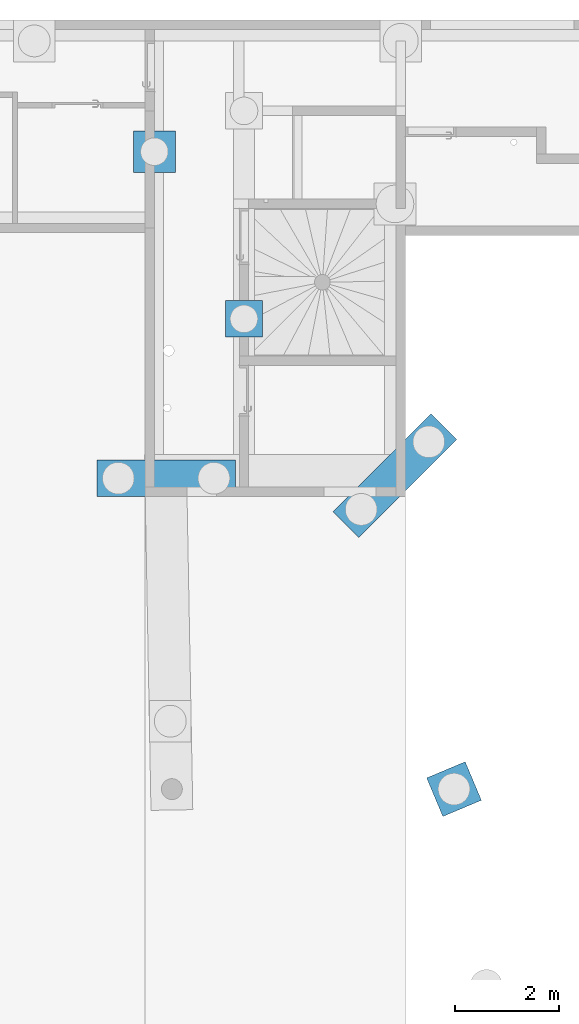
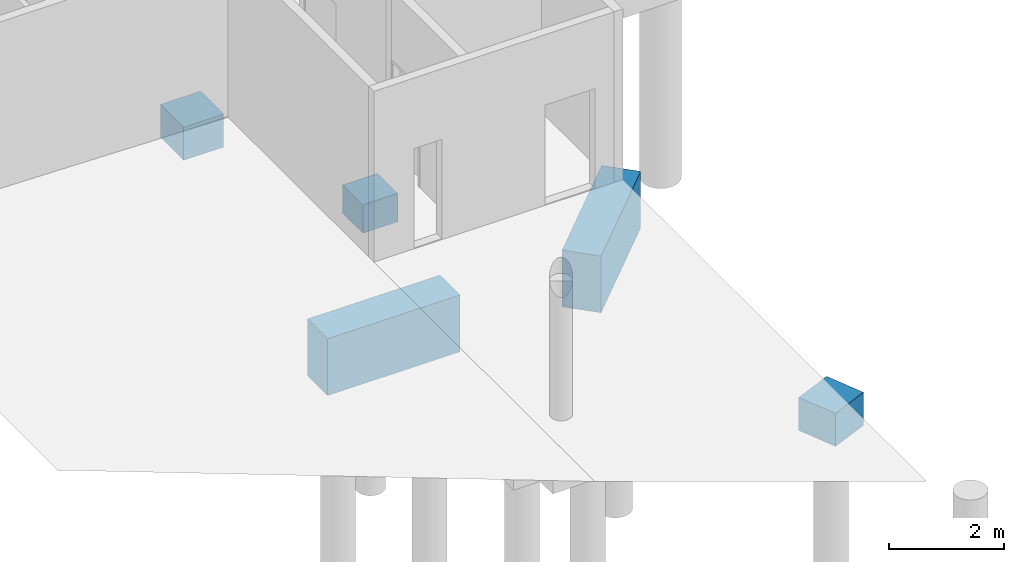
# One storey, part 10 of 14: 5 slabs.
"""IFC2X3 building model written with IfcOpenShell, lengths in centimetres."""

from ifc_helpers import new_model, entity, si_unit, converted_unit, derived_unit, direction, frame, origin, place, context, subcontext, project, spatial, faceted_brep, material, element, save


model = new_model("IFC2X3")

# Units and contexts
model_context = context("Model", 3, precision=0.001, world=origin(), true_north=direction((6.12303176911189e-17, 1.0)))
body_context = subcontext(model_context, "Body", "Model", "MODEL_VIEW")
ifc_project = project(units=[si_unit("LENGTHUNIT", "METRE", prefix="CENTI"), si_unit("AREAUNIT", "SQUARE_METRE"), si_unit("VOLUMEUNIT", "CUBIC_METRE"), converted_unit("PLANEANGLEUNIT", "DEGREE", entity("IfcRatioMeasure", 0.0174532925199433), si_unit("PLANEANGLEUNIT", "RADIAN"), dimensions=[0, 0, 0, 0, 0, 0, 0]), si_unit("MASSUNIT", "GRAM", prefix="KILO"), derived_unit("MASSDENSITYUNIT", [(si_unit("MASSUNIT", "GRAM", prefix="KILO"), 1), (si_unit("LENGTHUNIT", "METRE"), -3)]), si_unit("TIMEUNIT", "SECOND"), si_unit("FREQUENCYUNIT", "HERTZ"), si_unit("THERMODYNAMICTEMPERATUREUNIT", "DEGREE_CELSIUS"), derived_unit("THERMALTRANSMITTANCEUNIT", [(si_unit("MASSUNIT", "GRAM", prefix="KILO"), 1), (si_unit("THERMODYNAMICTEMPERATUREUNIT", "KELVIN"), -1), (si_unit("TIMEUNIT", "SECOND"), -3)]), derived_unit("VOLUMETRICFLOWRATEUNIT", [(si_unit("LENGTHUNIT", "METRE"), 3), (si_unit("TIMEUNIT", "SECOND"), -1)]), si_unit("ELECTRICCURRENTUNIT", "AMPERE"), si_unit("ELECTRICVOLTAGEUNIT", "VOLT"), si_unit("POWERUNIT", "WATT"), si_unit("FORCEUNIT", "NEWTON"), si_unit("ILLUMINANCEUNIT", "LUX"), si_unit("LUMINOUSFLUXUNIT", "LUMEN"), si_unit("LUMINOUSINTENSITYUNIT", "CANDELA"), derived_unit("USERDEFINED", [(si_unit("MASSUNIT", "GRAM", prefix="KILO"), -1), (si_unit("LENGTHUNIT", "METRE"), -2), (si_unit("TIMEUNIT", "SECOND"), 3), (si_unit("LUMINOUSFLUXUNIT", "LUMEN"), 1)]), derived_unit("LINEARVELOCITYUNIT", [(si_unit("LENGTHUNIT", "METRE"), 1), (si_unit("TIMEUNIT", "SECOND"), -1)]), si_unit("PRESSUREUNIT", "PASCAL"), derived_unit("USERDEFINED", [(si_unit("LENGTHUNIT", "METRE"), -2), (si_unit("MASSUNIT", "GRAM", prefix="KILO"), 1), (si_unit("TIMEUNIT", "SECOND"), -2)])], contexts=[model_context])

# Site, building, storey
site_placement = place(None, origin())
site = spatial("IfcSite", under=ifc_project, at=site_placement, Name="Default", CompositionType="ELEMENT")
building_placement = place(site_placement, origin())
building = spatial("IfcBuilding", under=site, at=building_placement, Name="CAGE 03", CompositionType="ELEMENT")
storey_placement = place(building_placement, frame((0.0, 0.0, -42.0)))
storey = spatial("IfcBuildingStorey", under=building, at=storey_placement, Name="+3.58", CompositionType="ELEMENT", Elevation=-42.0000000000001)

# Slabs
ifc_material = material(Name="Béton, C25/30")
slab_1_placement = place(storey_placement, frame((9917.86582014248, 4381.66066607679, -252.0)))
element("IfcSlab", 1, at=slab_1_placement, inside=storey, material=ifc_material, Name="M_Base-Rectangulaire:265x70x120ht", ObjectType="M_Base-Rectangulaire:265x70x120ht", PredefinedType="BASESLAB", context=body_context, shape_type="Brep", body=[
    faceted_brep([(265.0, 70.0, 120.0), (0.0, 70.0, 120.0), (0.0, 0.0, 120.0), (265.0, 0.0, 120.0), (0.0, 0.0, 0.0), (41.0, 4.49999999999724, 0.0), (224.0, 4.49999999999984, 0.0), (265.0, 0.0, 0.0), (35.6083107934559, 6.73331079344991, 0.0), (30.2166215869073, 8.96662158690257, 0.0), (24.8249323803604, 11.1999323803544, 0.0), (19.4332431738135, 13.433243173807, 0.0), (17.1999323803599, 18.8249323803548, 0.0), (14.9666215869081, 24.2166215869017, 0.0), (12.7333107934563, 29.6083107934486, 0.0), (10.5000000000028, 35.0, 0.0), (0.0, 70.0, 0.0), (12.7333107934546, 40.3916892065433, 0.0), (14.9666215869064, 45.783378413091, 0.0), (17.1999323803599, 51.175067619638, 0.0), (19.4332431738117, 56.5667568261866, 0.0), (24.8249323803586, 58.8000676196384, 0.0), (30.2166215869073, 61.0333784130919, 0.0), (35.6083107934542, 63.2666892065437, 0.0), (41.0, 65.4999999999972, 0.0), (224.0, 65.4999999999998, 0.0), (265.0, 70.0, 0.0), (254.499999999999, 35.0, 0.0), (252.266689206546, 40.3916892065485, 0.0), (229.391689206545, 63.266689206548, 0.0), (234.783378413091, 61.0333784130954, 0.0), (240.17506761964, 58.8000676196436, 0.0), (245.566756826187, 56.5667568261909, 0.0), (250.033378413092, 45.7833784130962, 0.0), (247.80006761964, 51.175067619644, 0.0), (218.608310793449, 63.2666892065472, 0.0), (213.216621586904, 61.0333784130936, 0.0), (207.824932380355, 58.800067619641, 0.0), (202.433243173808, 56.5667568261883, 0.0), (46.3916892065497, 63.2666892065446, 0.0), (51.7833784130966, 61.0333784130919, 0.0), (57.1750676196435, 58.8000676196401, 0.0), (62.5667568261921, 56.5667568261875, 0.0), (64.8000676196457, 51.1750676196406, 0.0), (67.0333784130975, 45.7833784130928, 0.0), (69.2666892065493, 40.391689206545, 0.0), (71.5000000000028, 35.0, 0.0), (200.199932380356, 51.1750676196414, 0.0), (197.966621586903, 45.7833784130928, 0.0), (195.733310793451, 40.3916892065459, 0.0), (193.499999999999, 35.0, 0.0), (195.733310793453, 29.6083107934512, 0.0), (197.966621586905, 24.2166215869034, 0.0), (200.199932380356, 18.8249323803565, 0.0), (202.43324317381, 13.4332431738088, 0.0), (46.3916892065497, 6.73331079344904, 0.0), (207.824932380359, 11.199932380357, 0.0), (69.2666892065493, 29.6083107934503, 0.0), (67.0333784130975, 24.2166215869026, 0.0), (64.8000676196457, 18.8249323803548, 0.0), (62.5667568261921, 13.4332431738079, 0.0), (51.7833784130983, 8.96662158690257, 0.0), (57.1750676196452, 11.1999323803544, 0.0), (213.216621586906, 8.9666215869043, 0.0), (218.608310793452, 6.73331079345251, 0.0), (229.391689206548, 6.73331079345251, 0.0), (234.783378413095, 8.96662158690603, 0.0), (240.175067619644, 11.1999323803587, 0.0), (245.56675682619, 13.4332431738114, 0.0), (247.800067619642, 18.8249323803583, 0.0), (250.033378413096, 24.2166215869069, 0.0), (252.266689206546, 29.6083107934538, 0.0), (41.0, 65.4999999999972, 5.0), (46.3916892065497, 63.2666892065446, 5.0), (51.7833784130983, 61.0333784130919, 5.0), (57.1750676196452, 58.8000676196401, 5.0), (62.5667568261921, 56.5667568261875, 5.0), (65.81478565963, 48.7253215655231, 5.0), (68.6573928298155, 41.8626607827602, 5.0), (71.5000000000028, 35.0, 5.0), (68.6573928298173, 28.137339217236, 5.0), (67.0333784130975, 24.2166215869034, 5.0), (64.8000676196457, 18.8249323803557, 5.0), (62.5667568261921, 13.4332431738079, 5.0), (57.1750676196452, 11.1999323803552, 5.0), (51.7833784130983, 8.96662158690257, 5.0), (46.3916892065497, 6.73331079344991, 5.0), (41.0, 4.49999999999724, 5.0), (35.6083107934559, 6.73331079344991, 5.0), (30.2166215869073, 8.96662158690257, 5.0), (24.8249323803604, 11.1999323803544, 5.0), (19.4332431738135, 13.433243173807, 5.0), (16.1852143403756, 21.2746784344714, 5.0), (13.3426071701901, 28.1373392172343, 5.0), (10.5000000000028, 35.0, 5.0), (13.3426071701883, 41.8626607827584, 5.0), (14.9666215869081, 45.783378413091, 5.0), (17.1999323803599, 51.1750676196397, 5.0), (19.4332431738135, 56.5667568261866, 5.0), (24.8249323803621, 58.8000676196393, 5.0), (30.216621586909, 61.0333784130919, 5.0), (35.6083107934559, 63.2666892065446, 5.0), (224.0, 65.4999999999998, 5.0), (229.391689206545, 63.266689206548, 5.0), (234.783378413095, 61.0333784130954, 5.0), (240.17506761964, 58.8000676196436, 5.0), (245.566756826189, 56.5667568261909, 5.0), (248.814785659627, 48.7253215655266, 5.0), (251.657392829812, 41.8626607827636, 5.0), (254.499999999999, 35.0, 5.0), (251.657392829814, 28.1373392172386, 5.0), (250.033378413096, 24.2166215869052, 5.0), (247.800067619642, 18.8249323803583, 5.0), (245.56675682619, 13.4332431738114, 5.0), (240.175067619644, 11.1999323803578, 5.0), (234.783378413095, 8.96662158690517, 5.0), (229.391689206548, 6.73331079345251, 5.0), (224.0, 4.49999999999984, 5.0), (218.608310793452, 6.73331079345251, 5.0), (213.216621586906, 8.9666215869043, 5.0), (207.824932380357, 11.1999323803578, 5.0), (202.43324317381, 13.4332431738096, 5.0), (199.185214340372, 21.2746784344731, 5.0), (196.342607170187, 28.137339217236, 5.0), (193.499999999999, 35.0, 5.0), (196.342607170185, 41.8626607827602, 5.0), (197.966621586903, 45.7833784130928, 5.0), (200.199932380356, 51.1750676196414, 5.0), (202.433243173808, 56.5667568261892, 5.0), (207.824932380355, 58.800067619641, 5.0), (213.216621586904, 61.0333784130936, 5.0), (218.608310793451, 63.2666892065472, 5.0)], [[[0, 1, 2, 3]], [[4, 5, 6]], [[6, 7, 4]], [[4, 8, 5]], [[4, 9, 8]], [[4, 10, 9]], [[4, 11, 10]], [[4, 12, 11]], [[4, 13, 12]], [[4, 14, 13]], [[4, 15, 14]], [[15, 4, 16]], [[16, 17, 15]], [[16, 18, 17]], [[16, 19, 18]], [[16, 20, 19]], [[16, 21, 20]], [[16, 22, 21]], [[16, 23, 22]], [[16, 24, 23]], [[24, 16, 25]], [[26, 25, 16]], [[27, 26, 7]], [[26, 27, 28]], [[26, 29, 25]], [[26, 30, 29]], [[26, 31, 30]], [[26, 32, 31]], [[26, 28, 33]], [[26, 33, 34]], [[26, 34, 32]], [[24, 25, 35]], [[24, 35, 36]], [[24, 36, 37]], [[24, 37, 38]], [[38, 39, 24]], [[38, 40, 39]], [[38, 41, 40]], [[38, 42, 41]], [[38, 43, 42]], [[38, 44, 43]], [[38, 45, 44]], [[38, 46, 45]], [[46, 38, 47]], [[46, 47, 48]], [[46, 48, 49]], [[46, 49, 50]], [[46, 50, 51]], [[46, 51, 52]], [[46, 52, 53]], [[46, 53, 54]], [[54, 5, 55]], [[5, 54, 56]], [[54, 57, 46]], [[54, 58, 57]], [[54, 59, 58]], [[54, 60, 59]], [[54, 55, 61]], [[54, 61, 62]], [[54, 62, 60]], [[5, 56, 63]], [[5, 63, 64]], [[5, 64, 6]], [[7, 6, 65]], [[7, 65, 66]], [[7, 66, 67]], [[7, 67, 68]], [[7, 68, 69]], [[7, 69, 70]], [[7, 70, 71]], [[7, 71, 27]], [[2, 1, 16, 4]], [[3, 2, 4, 7]], [[0, 3, 7, 26]], [[1, 0, 26, 16]], [[72, 73, 74, 75, 76, 77, 78, 79, 80, 81, 82, 83, 84, 85, 86, 87, 88, 89, 90, 91, 92, 93, 94, 95, 96, 97, 98, 99, 100, 101]], [[102, 103, 104, 105, 106, 107, 108, 109, 110, 111, 112, 113, 114, 115, 116, 117, 118, 119, 120, 121, 122, 123, 124, 125, 126, 127, 128, 129, 130, 131]], [[11, 91, 90, 89, 88, 87, 5, 8, 9, 10]], [[57, 58, 59, 60, 83, 82, 81, 80, 79, 46]], [[11, 12, 13, 14, 15, 94, 93, 92, 91]], [[55, 5, 87, 86, 85, 84, 83, 60, 62, 61]], [[42, 76, 75, 74, 73, 72, 24, 39, 40, 41]], [[17, 18, 19, 20, 98, 97, 96, 95, 94, 15]], [[42, 43, 44, 45, 46, 79, 78, 77, 76]], [[23, 24, 72, 101, 100, 99, 98, 20, 21, 22]], [[54, 121, 120, 119, 118, 117, 6, 64, 63, 56]], [[71, 70, 69, 68, 113, 112, 111, 110, 109, 27]], [[54, 53, 52, 51, 50, 124, 123, 122, 121]], [[65, 6, 117, 116, 115, 114, 113, 68, 67, 66]], [[32, 106, 105, 104, 103, 102, 25, 29, 30, 31]], [[49, 48, 47, 38, 128, 127, 126, 125, 124, 50]], [[32, 34, 33, 28, 27, 109, 108, 107, 106]], [[35, 25, 102, 131, 130, 129, 128, 38, 37, 36]]]),
])
slab_2_placement = place(storey_placement, frame((10369.9254342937, 4303.22028022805, -205.0)))
element("IfcSlab", 2, at=slab_2_placement, inside=storey, material=ifc_material, Name="M_Base-Rectangulaire:265x70x120ht", ObjectType="M_Base-Rectangulaire:265x70x120ht", PredefinedType="BASESLAB", context=body_context, shape_type="Brep", body=[
    faceted_brep([(187.383297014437, 236.880771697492, 120.0), (0.0, 49.4974746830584, 120.0), (49.4974746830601, 0.0, 120.0), (236.880771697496, 187.383297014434, 120.0), (49.4974746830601, 0.0, 0.0), (75.3068721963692, 32.1733585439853, 0.0), (204.70741315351, 161.573899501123, 0.0), (236.880771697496, 187.383297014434, 0.0), (69.9151829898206, 29.9400477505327, 0.0), (64.5234937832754, 27.70673695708, 0.0), (59.1318045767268, 25.4734261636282, 0.0), (53.7401153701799, 23.2401153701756, 0.0), (48.348426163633, 25.4734261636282, 0.0), (42.9567369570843, 27.70673695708, 0.0), (37.5650477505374, 29.9400477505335, 0.0), (32.1733585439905, 32.1733585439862, 0.0), (0.0, 49.4974746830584, 0.0), (29.940047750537, 37.565047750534, 0.0), (27.7067369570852, 42.9567369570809, 0.0), (25.4734261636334, 48.3484261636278, 0.0), (23.2401153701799, 53.7401153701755, 0.0), (25.4734261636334, 59.1318045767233, 0.0), (27.7067369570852, 64.5234937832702, 0.0), (29.940047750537, 69.9151829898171, 0.0), (32.1733585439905, 75.3068721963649, 0.0), (161.573899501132, 204.707413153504, 0.0), (187.383297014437, 236.880771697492, 0.0), (204.70741315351, 204.707413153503, 0.0), (199.315723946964, 206.940723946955, 0.0), (166.965588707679, 206.940723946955, 0.0), (172.357277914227, 209.174034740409, 0.0), (177.748967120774, 211.407345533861, 0.0), (183.140656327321, 213.640656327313, 0.0), (193.924034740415, 209.174034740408, 0.0), (188.53234553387, 211.407345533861, 0.0), (159.34058870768, 199.315723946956, 0.0), (157.107277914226, 193.924034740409, 0.0), (154.873967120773, 188.532345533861, 0.0), (152.640656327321, 183.140656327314, 0.0), (37.5650477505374, 77.5401829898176, 0.0), (42.9567369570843, 79.7734937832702, 0.0), (48.3484261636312, 82.0068045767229, 0.0), (53.7401153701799, 84.2401153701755, 0.0), (59.1318045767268, 82.0068045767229, 0.0), (64.5234937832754, 79.7734937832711, 0.0), (69.9151829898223, 77.5401829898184, 0.0), (75.3068721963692, 75.3068721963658, 0.0), (154.873967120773, 177.748967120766, 0.0), (157.107277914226, 172.357277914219, 0.0), (159.34058870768, 166.965588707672, 0.0), (161.573899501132, 161.573899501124, 0.0), (166.965588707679, 159.340588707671, 0.0), (172.357277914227, 157.107277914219, 0.0), (177.748967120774, 154.873967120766, 0.0), (183.140656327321, 152.640656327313, 0.0), (77.5401829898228, 37.5650477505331, 0.0), (188.532345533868, 154.873967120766, 0.0), (77.540182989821, 69.915182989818, 0.0), (79.7734937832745, 64.5234937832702, 0.0), (82.0068045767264, 59.1318045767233, 0.0), (84.2401153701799, 53.7401153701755, 0.0), (79.7734937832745, 42.9567369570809, 0.0), (82.0068045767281, 48.3484261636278, 0.0), (193.924034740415, 157.107277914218, 0.0), (199.315723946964, 159.340588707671, 0.0), (206.940723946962, 166.965588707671, 0.0), (209.174034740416, 172.357277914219, 0.0), (211.407345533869, 177.748967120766, 0.0), (213.640656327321, 183.140656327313, 0.0), (211.407345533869, 188.532345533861, 0.0), (209.174034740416, 193.924034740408, 0.0), (206.940723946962, 199.315723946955, 0.0), (53.7401153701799, 84.2401153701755, 5.0), (59.1318045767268, 82.0068045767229, 5.0), (64.5234937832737, 79.7734937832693, 5.0), (69.9151829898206, 77.5401829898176, 5.0), (75.3068721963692, 75.3068721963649, 5.0), (78.5549010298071, 67.4654369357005, 5.0), (81.3975081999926, 60.6027761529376, 5.0), (84.2401153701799, 53.7401153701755, 5.0), (81.3975081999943, 46.8774545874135, 5.0), (79.7734937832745, 42.9567369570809, 5.0), (77.5401829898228, 37.5650477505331, 5.0), (75.3068721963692, 32.1733585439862, 5.0), (69.9151829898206, 29.9400477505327, 5.0), (64.5234937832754, 27.70673695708, 5.0), (59.1318045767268, 25.4734261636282, 5.0), (53.7401153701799, 23.2401153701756, 5.0), (48.3484261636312, 25.4734261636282, 5.0), (42.9567369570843, 27.7067369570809, 5.0), (37.5650477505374, 29.9400477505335, 5.0), (32.1733585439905, 32.1733585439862, 5.0), (28.9253297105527, 40.0147938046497, 5.0), (26.0827225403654, 46.8774545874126, 5.0), (23.2401153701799, 53.7401153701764, 5.0), (26.0827225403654, 60.6027761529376, 5.0), (27.7067369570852, 64.5234937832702, 5.0), (29.940047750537, 69.915182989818, 5.0), (32.1733585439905, 75.3068721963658, 5.0), (37.5650477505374, 77.5401829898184, 5.0), (42.9567369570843, 79.7734937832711, 5.0), (48.348426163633, 82.0068045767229, 5.0), (183.140656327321, 213.640656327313, 5.0), (188.532345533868, 211.407345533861, 5.0), (193.924034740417, 209.174034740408, 5.0), (199.315723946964, 206.940723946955, 5.0), (204.70741315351, 204.707413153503, 5.0), (207.955441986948, 196.865977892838, 5.0), (210.798049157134, 190.003317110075, 5.0), (213.640656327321, 183.140656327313, 5.0), (210.798049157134, 176.277995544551, 5.0), (209.174034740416, 172.357277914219, 5.0), (206.940723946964, 166.965588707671, 5.0), (204.70741315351, 161.573899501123, 5.0), (199.315723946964, 159.34058870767, 5.0), (193.924034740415, 157.107277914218, 5.0), (188.53234553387, 154.873967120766, 5.0), (183.140656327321, 152.640656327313, 5.0), (177.748967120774, 154.873967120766, 5.0), (172.357277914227, 157.107277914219, 5.0), (166.965588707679, 159.340588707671, 5.0), (161.573899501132, 161.573899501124, 5.0), (158.325870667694, 169.415334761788, 5.0), (155.483263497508, 176.277995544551, 5.0), (152.640656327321, 183.140656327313, 5.0), (155.483263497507, 190.003317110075, 5.0), (157.107277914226, 193.924034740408, 5.0), (159.340588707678, 199.315723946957, 5.0), (161.573899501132, 204.707413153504, 5.0), (166.965588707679, 206.940723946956, 5.0), (172.357277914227, 209.174034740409, 5.0), (177.748967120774, 211.407345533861, 5.0)], [[[0, 1, 2, 3]], [[4, 5, 6]], [[6, 7, 4]], [[4, 8, 5]], [[4, 9, 8]], [[4, 10, 9]], [[4, 11, 10]], [[4, 12, 11]], [[4, 13, 12]], [[4, 14, 13]], [[4, 15, 14]], [[15, 4, 16]], [[16, 17, 15]], [[16, 18, 17]], [[16, 19, 18]], [[16, 20, 19]], [[16, 21, 20]], [[16, 22, 21]], [[16, 23, 22]], [[16, 24, 23]], [[24, 16, 25]], [[26, 25, 16]], [[27, 26, 7]], [[26, 27, 28]], [[26, 29, 25]], [[26, 30, 29]], [[26, 31, 30]], [[26, 32, 31]], [[26, 28, 33]], [[26, 33, 34]], [[26, 34, 32]], [[24, 25, 35]], [[24, 35, 36]], [[24, 36, 37]], [[24, 37, 38]], [[38, 39, 24]], [[38, 40, 39]], [[38, 41, 40]], [[38, 42, 41]], [[38, 43, 42]], [[38, 44, 43]], [[38, 45, 44]], [[38, 46, 45]], [[46, 38, 47]], [[46, 47, 48]], [[46, 48, 49]], [[46, 49, 50]], [[46, 50, 51]], [[46, 51, 52]], [[46, 52, 53]], [[46, 53, 54]], [[54, 5, 55]], [[5, 54, 56]], [[54, 57, 46]], [[54, 58, 57]], [[54, 59, 58]], [[54, 60, 59]], [[54, 55, 61]], [[54, 61, 62]], [[54, 62, 60]], [[5, 56, 63]], [[5, 63, 64]], [[5, 64, 6]], [[7, 6, 65]], [[7, 65, 66]], [[7, 66, 67]], [[7, 67, 68]], [[7, 68, 69]], [[7, 69, 70]], [[7, 70, 71]], [[7, 71, 27]], [[2, 1, 16, 4]], [[3, 2, 4, 7]], [[0, 3, 7, 26]], [[1, 0, 26, 16]], [[72, 73, 74, 75, 76, 77, 78, 79, 80, 81, 82, 83, 84, 85, 86, 87, 88, 89, 90, 91, 92, 93, 94, 95, 96, 97, 98, 99, 100, 101]], [[102, 103, 104, 105, 106, 107, 108, 109, 110, 111, 112, 113, 114, 115, 116, 117, 118, 119, 120, 121, 122, 123, 124, 125, 126, 127, 128, 129, 130, 131]], [[15, 91, 90, 89, 88, 87, 11, 12, 13, 14]], [[62, 61, 55, 5, 83, 82, 81, 80, 79, 60]], [[15, 17, 18, 19, 20, 94, 93, 92, 91]], [[10, 11, 87, 86, 85, 84, 83, 5, 8, 9]], [[46, 76, 75, 74, 73, 72, 42, 43, 44, 45]], [[21, 22, 23, 24, 98, 97, 96, 95, 94, 20]], [[46, 57, 58, 59, 60, 79, 78, 77, 76]], [[41, 42, 72, 101, 100, 99, 98, 24, 39, 40]], [[50, 121, 120, 119, 118, 117, 54, 53, 52, 51]], [[67, 66, 65, 6, 113, 112, 111, 110, 109, 68]], [[50, 49, 48, 47, 38, 124, 123, 122, 121]], [[56, 54, 117, 116, 115, 114, 113, 6, 64, 63]], [[27, 106, 105, 104, 103, 102, 32, 34, 33, 28]], [[37, 36, 35, 25, 128, 127, 126, 125, 124, 38]], [[27, 71, 70, 69, 68, 109, 108, 107, 106]], [[31, 32, 102, 131, 130, 129, 128, 25, 29, 30]]]),
])
slab_3_placement = place(storey_placement, frame((9987.86582014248, 5001.66066607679, -155.0)))
element("IfcSlab", 3, at=slab_3_placement, inside=storey, material=ifc_material, Name="M_Base-Rectangulaire:80x80x70ht", ObjectType="M_Base-Rectangulaire:80x80x70ht", PredefinedType="BASESLAB", context=body_context, shape_type="Brep", body=[
    faceted_brep([(80.0, 80.0, 70.0), (0.0, 80.0, 70.0), (0.0, 0.0, 70.0), (80.0, 0.0, 70.0), (0.0, 0.0, 0.0), (13.5000000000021, 40.0, 0.0), (15.6920097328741, 35.0766655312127, 0.0), (0.0, 80.0, 0.0), (17.8840194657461, 30.1533310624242, 0.0), (20.0760291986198, 25.2299965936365, 0.0), (22.2680389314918, 20.3066621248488, 0.0), (27.3935302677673, 18.6412890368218, 0.0), (32.5190216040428, 16.9759159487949, 0.0), (37.64451294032, 15.3105428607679, 0.0), (42.7700042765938, 13.645169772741, 0.0), (80.0, 0.0, 0.0), (16.0305248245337, 47.7881545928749, 0.0), (18.5610496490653, 55.5763091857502, 0.0), (23.2282861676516, 58.2709394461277, 0.0), (27.8955226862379, 60.9655697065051, 0.0), (32.5627592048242, 63.6601999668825, 0.0), (37.2299957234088, 66.3548302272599, 0.0), (80.0, 80.0, 0.0), (66.5000000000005, 40.0, 0.0), (64.3079902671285, 44.9233344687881, 0.0), (62.1159805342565, 49.8466689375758, 0.0), (59.9239708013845, 54.7700034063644, 0.0), (57.7319610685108, 59.6933378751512, 0.0), (52.6064697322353, 61.3587109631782, 0.0), (47.4809783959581, 63.0240840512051, 0.0), (42.3554870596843, 64.689457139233, 0.0), (47.4372407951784, 16.3398000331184, 0.0), (52.1044773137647, 19.0344302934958, 0.0), (56.771713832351, 21.7290605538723, 0.0), (61.4389503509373, 24.4236908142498, 0.0), (63.9694751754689, 32.2118454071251, 0.0), (13.5000000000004, 40.0, 5.0), (15.6920097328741, 44.9233344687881, 5.0), (17.8840194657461, 49.8466689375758, 5.0), (20.0760291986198, 54.7700034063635, 5.0), (22.26803893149, 59.6933378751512, 5.0), (27.3935302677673, 61.3587109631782, 5.0), (32.5190216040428, 63.024084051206, 5.0), (37.6445129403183, 64.6894571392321, 5.0), (42.7700042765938, 66.3548302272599, 5.0), (47.4372407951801, 63.6601999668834, 5.0), (52.1044773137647, 60.9655697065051, 5.0), (56.771713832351, 58.2709394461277, 5.0), (61.4389503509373, 55.5763091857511, 5.0), (63.9694751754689, 47.7881545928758, 5.0), (66.5000000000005, 40.0, 5.0), (64.3079902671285, 35.0766655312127, 5.0), (62.1159805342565, 30.153331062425, 5.0), (59.9239708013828, 25.2299965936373, 5.0), (57.7319610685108, 20.3066621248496, 5.0), (52.6064697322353, 18.6412890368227, 5.0), (47.4809783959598, 16.9759159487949, 5.0), (42.3554870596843, 15.3105428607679, 5.0), (37.2299957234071, 13.645169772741, 5.0), (32.5627592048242, 16.3398000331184, 5.0), (27.8955226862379, 19.0344302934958, 5.0), (23.2282861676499, 21.7290605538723, 5.0), (18.5610496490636, 24.4236908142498, 5.0), (16.0305248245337, 32.2118454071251, 5.0)], [[[0, 1, 2, 3]], [[4, 5, 6]], [[5, 4, 7]], [[4, 6, 8]], [[4, 8, 9]], [[4, 9, 10]], [[4, 10, 11]], [[4, 11, 12]], [[4, 12, 13]], [[4, 13, 14]], [[14, 15, 4]], [[7, 16, 5]], [[7, 17, 16]], [[7, 18, 17]], [[7, 19, 18]], [[7, 20, 19]], [[7, 21, 20]], [[21, 7, 22]], [[23, 22, 15]], [[22, 23, 24]], [[22, 24, 25]], [[22, 25, 26]], [[22, 26, 27]], [[22, 27, 28]], [[22, 28, 29]], [[22, 29, 30]], [[22, 30, 21]], [[15, 14, 31]], [[15, 31, 32]], [[15, 32, 33]], [[15, 33, 34]], [[15, 34, 35]], [[15, 35, 23]], [[2, 1, 7, 4]], [[3, 2, 4, 15]], [[0, 3, 15, 22]], [[1, 0, 22, 7]], [[36, 37, 38, 39, 40, 41, 42, 43, 44, 45, 46, 47, 48, 49, 50, 51, 52, 53, 54, 55, 56, 57, 58, 59, 60, 61, 62, 63]], [[9, 8, 62]], [[63, 6, 36]], [[63, 62, 8]], [[62, 61, 9]], [[35, 34, 52]], [[59, 58, 12]], [[36, 6, 5]], [[32, 55, 33]], [[11, 10, 60]], [[34, 33, 54]], [[35, 51, 23]], [[12, 58, 13]], [[60, 10, 61]], [[8, 6, 63]], [[57, 13, 58]], [[61, 10, 9]], [[56, 55, 32]], [[11, 59, 12]], [[54, 33, 55]], [[53, 52, 34, 54]], [[57, 14, 13]], [[31, 14, 56, 32]], [[11, 60, 59]], [[50, 23, 51]], [[57, 56, 14]], [[35, 52, 51]], [[26, 25, 48]], [[49, 24, 50]], [[49, 48, 25]], [[48, 47, 26]], [[46, 27, 47]], [[45, 28, 46]], [[50, 24, 23]], [[21, 43, 20]], [[45, 44, 29]], [[39, 38, 17, 40]], [[16, 37, 5]], [[29, 44, 30]], [[25, 24, 49]], [[43, 21, 30]], [[47, 27, 26]], [[42, 41, 19]], [[28, 27, 46]], [[16, 17, 38]], [[45, 29, 28]], [[36, 5, 37]], [[42, 20, 43]], [[40, 18, 41]], [[19, 41, 18]], [[40, 17, 18]], [[43, 30, 44]], [[42, 19, 20]], [[16, 38, 37]]]),
])
slab_4_placement = place(storey_placement, frame((10164.3658201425, 4686.66066607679, -180.0)))
element("IfcSlab", 4, at=slab_4_placement, inside=storey, material=ifc_material, Name="M_Base-Rectangulaire:70x70x60ht", ObjectType="M_Base-Rectangulaire:70x70x60ht", PredefinedType="BASESLAB", context=body_context, shape_type="Brep", body=[
    faceted_brep([(70.0, 70.0, 60.0), (0.0, 70.0, 60.0), (0.0, 0.0, 60.0), (70.0, 0.0, 60.0), (0.0, 0.0, 0.0), (8.50000000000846, 35.0, 0.0), (10.6920097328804, 30.0766655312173, 0.0), (0.0, 70.0, 0.0), (12.8840194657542, 25.1533310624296, 0.0), (15.0760291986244, 20.2299965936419, 0.0), (17.2680389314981, 15.3066621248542, 0.0), (22.3935302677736, 13.6412890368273, 0.0), (27.5190216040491, 11.9759159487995, 0.0), (32.6445129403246, 10.3105428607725, 0.0), (37.7700042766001, 8.64516977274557, 0.0), (70.0, 0.0, 0.0), (11.03052482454, 42.7881545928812, 0.0), (13.5610496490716, 50.5763091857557, 0.0), (18.2282861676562, 53.2709394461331, 0.0), (22.8955226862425, 55.9655697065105, 0.0), (27.5627592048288, 58.6601999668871, 0.0), (32.2299957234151, 61.3548302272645, 0.0), (70.0, 70.0, 0.0), (61.5000000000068, 35.0, 0.0), (59.3079902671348, 39.9233344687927, 0.0), (57.1159805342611, 44.8466689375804, 0.0), (54.9239708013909, 49.7700034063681, 0.0), (52.7319610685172, 54.6933378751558, 0.0), (47.6064697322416, 56.3587109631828, 0.0), (42.4809783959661, 58.0240840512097, 0.0), (37.3554870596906, 59.6894571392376, 0.0), (42.4372407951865, 11.339800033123, 0.0), (47.1044773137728, 14.0344302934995, 0.0), (51.7717138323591, 16.7290605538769, 0.0), (56.4389503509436, 19.4236908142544, 0.0), (58.9694751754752, 27.2118454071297, 0.0), (8.50000000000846, 35.0, 5.0), (11.3061340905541, 28.6973196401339, 5.0), (14.1122681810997, 22.3946392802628, 5.0), (17.2680389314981, 15.3066621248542, 5.0), (37.7700042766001, 8.64516977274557, 5.0), (42.4372407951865, 11.339800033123, 5.0), (47.1044773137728, 14.0344302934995, 5.0), (51.7717138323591, 16.7290605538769, 5.0), (56.4389503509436, 19.4236908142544, 5.0), (32.6445129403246, 10.3105428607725, 5.0), (22.3935302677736, 13.6412890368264, 5.0), (27.5190216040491, 11.9759159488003, 5.0), (58.9694751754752, 27.2118454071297, 5.0), (61.5000000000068, 35.0, 5.0), (58.6938659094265, 41.302680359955, 5.0), (55.8877318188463, 47.605360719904, 5.0), (52.7319610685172, 54.6933378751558, 5.0), (32.2299957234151, 61.3548302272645, 5.0), (27.5627592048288, 58.6601999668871, 5.0), (22.8955226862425, 55.9655697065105, 5.0), (18.2282861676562, 53.2709394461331, 5.0), (13.5610496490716, 50.5763091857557, 5.0), (37.3554870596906, 59.6894571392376, 5.0), (47.6064697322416, 56.3587109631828, 5.0), (42.4809783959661, 58.0240840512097, 5.0), (11.03052482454, 42.7881545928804, 5.0)], [[[0, 1, 2, 3]], [[4, 5, 6]], [[5, 4, 7]], [[4, 6, 8]], [[4, 8, 9]], [[4, 9, 10]], [[4, 10, 11]], [[4, 11, 12]], [[4, 12, 13]], [[4, 13, 14]], [[14, 15, 4]], [[7, 16, 5]], [[7, 17, 16]], [[7, 18, 17]], [[7, 19, 18]], [[7, 20, 19]], [[7, 21, 20]], [[21, 7, 22]], [[23, 22, 15]], [[22, 23, 24]], [[22, 24, 25]], [[22, 25, 26]], [[22, 26, 27]], [[22, 27, 28]], [[22, 28, 29]], [[22, 29, 30]], [[22, 30, 21]], [[15, 14, 31]], [[15, 31, 32]], [[15, 32, 33]], [[15, 33, 34]], [[15, 34, 35]], [[15, 35, 23]], [[2, 1, 7, 4]], [[3, 2, 4, 15]], [[0, 3, 15, 22]], [[1, 0, 22, 7]], [[10, 9, 8, 6, 5, 36, 37, 38, 39]], [[33, 32, 31, 14, 40, 41, 42, 43, 44, 34]], [[45, 40, 14, 13, 12, 11, 10, 39, 46, 47]], [[35, 34, 44, 48, 49, 23]], [[27, 26, 25, 24, 23, 49, 50, 51, 52]], [[18, 19, 20, 21, 53, 54, 55, 56, 57, 17]], [[58, 53, 21, 30, 29, 28, 27, 52, 59, 60]], [[16, 17, 57, 61, 36, 5]], [[39, 38, 37, 36, 61, 57, 56, 55, 54, 53, 58, 60, 59, 52, 51, 50, 49, 48, 44, 43, 42, 41, 40, 45, 47, 46]]]),
])
slab_5_placement = place(storey_placement, frame((10548.9883315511, 3769.28317748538, -220.0)))
element("IfcSlab", 5, at=slab_5_placement, inside=storey, material=ifc_material, Name="M_Base-Rectangulaire:80x80x70ht", ObjectType="M_Base-Rectangulaire:80x80x70ht", PredefinedType="BASESLAB", context=body_context, shape_type="Brep", body=[
    faceted_brep([(73.7456585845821, 104.754977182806, 70.0), (0.0, 73.745658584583, 70.0), (31.0093185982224, 0.0, 70.0), (104.754977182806, 31.0093185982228, 70.0), (31.0093185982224, 0.0, 0.0), (30.8107317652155, 30.8107317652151, 0.0), (36.2024209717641, 28.577420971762, 0.0), (0.0, 73.745658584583, 0.0), (41.5941101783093, 26.3441101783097, 0.0), (46.9857993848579, 24.1107993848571, 0.0), (52.3774885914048, 21.8774885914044, 0.0), (57.7691777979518, 24.1107993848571, 0.0), (63.1608670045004, 26.3441101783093, 0.0), (68.5525562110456, 28.5774209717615, 0.0), (73.9442454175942, 30.8107317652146, 0.0), (104.754977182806, 31.0093185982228, 0.0), (28.5774209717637, 36.202420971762, 0.0), (26.3441101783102, 41.5941101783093, 0.0), (24.1107993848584, 46.9857993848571, 0.0), (21.8774885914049, 52.3774885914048, 0.0), (24.1107993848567, 57.7691777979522, 0.0), (26.3441101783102, 63.1608670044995, 0.0), (28.577420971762, 68.5525562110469, 0.0), (30.8107317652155, 73.9442454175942, 0.0), (73.7456585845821, 104.754977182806, 0.0), (73.9442454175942, 73.9442454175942, 0.0), (68.5525562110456, 76.1775562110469, 0.0), (63.1608670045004, 78.4108670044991, 0.0), (57.7691777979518, 80.6441777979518, 0.0), (52.3774885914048, 82.8774885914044, 0.0), (46.9857993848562, 80.6441777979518, 0.0), (41.594110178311, 78.4108670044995, 0.0), (36.2024209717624, 76.1775562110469, 0.0), (76.177556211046, 36.202420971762, 0.0), (78.4108670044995, 41.5941101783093, 0.0), (80.6441777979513, 46.9857993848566, 0.0), (82.8774885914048, 52.3774885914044, 0.0), (80.6441777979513, 57.7691777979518, 0.0), (78.4108670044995, 63.1608670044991, 0.0), (76.177556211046, 68.5525562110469, 0.0), (52.3774885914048, 82.8774885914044, 5.0), (57.7691777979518, 80.6441777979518, 5.0), (63.1608670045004, 78.4108670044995, 5.0), (68.5525562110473, 76.1775562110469, 5.0), (73.9442454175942, 73.9442454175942, 5.0), (77.1922742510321, 66.1028101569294, 5.0), (80.0348814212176, 59.2401493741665, 5.0), (82.8774885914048, 52.3774885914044, 5.0), (80.0348814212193, 45.5148278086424, 5.0), (78.4108670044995, 41.5941101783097, 5.0), (76.1775562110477, 36.202420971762, 5.0), (73.9442454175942, 30.8107317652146, 5.0), (68.5525562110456, 28.577420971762, 5.0), (63.1608670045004, 26.3441101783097, 5.0), (57.7691777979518, 24.1107993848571, 5.0), (52.3774885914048, 21.8774885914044, 5.0), (46.9857993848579, 24.1107993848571, 5.0), (41.5941101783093, 26.3441101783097, 5.0), (36.2024209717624, 28.5774209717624, 5.0), (30.8107317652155, 30.8107317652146, 5.0), (27.5627029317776, 38.6521670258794, 5.0), (24.7200957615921, 45.5148278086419, 5.0), (21.8774885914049, 52.3774885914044, 5.0), (24.7200957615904, 59.2401493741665, 5.0), (26.3441101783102, 63.1608670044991, 5.0), (28.5774209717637, 68.5525562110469, 5.0), (30.8107317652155, 73.9442454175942, 5.0), (36.2024209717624, 76.1775562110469, 5.0), (41.594110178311, 78.4108670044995, 5.0), (46.9857993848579, 80.6441777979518, 5.0)], [[[0, 1, 2, 3]], [[4, 5, 6]], [[5, 4, 7]], [[4, 6, 8]], [[4, 8, 9]], [[4, 9, 10]], [[4, 10, 11]], [[4, 11, 12]], [[4, 12, 13]], [[4, 13, 14]], [[14, 15, 4]], [[7, 16, 5]], [[7, 17, 16]], [[7, 18, 17]], [[7, 19, 18]], [[7, 20, 19]], [[7, 21, 20]], [[7, 22, 21]], [[7, 23, 22]], [[23, 7, 24]], [[25, 24, 15]], [[24, 25, 26]], [[24, 26, 27]], [[24, 27, 28]], [[24, 28, 29]], [[24, 29, 30]], [[24, 30, 31]], [[24, 31, 32]], [[24, 32, 23]], [[15, 14, 33]], [[15, 33, 34]], [[15, 34, 35]], [[15, 35, 36]], [[15, 36, 37]], [[15, 37, 38]], [[15, 38, 39]], [[15, 39, 25]], [[2, 1, 7, 4]], [[3, 2, 4, 15]], [[0, 3, 15, 24]], [[1, 0, 24, 7]], [[40, 41, 42, 43, 44, 45, 46, 47, 48, 49, 50, 51, 52, 53, 54, 55, 56, 57, 58, 59, 60, 61, 62, 63, 64, 65, 66, 67, 68, 69]], [[5, 59, 58, 57, 56, 55, 10, 9, 8, 6]], [[35, 34, 33, 14, 51, 50, 49, 48, 47, 36]], [[5, 16, 17, 18, 19, 62, 61, 60, 59]], [[11, 10, 55, 54, 53, 52, 51, 14, 13, 12]], [[25, 44, 43, 42, 41, 40, 29, 28, 27, 26]], [[20, 21, 22, 23, 66, 65, 64, 63, 62, 19]], [[25, 39, 38, 37, 36, 47, 46, 45, 44]], [[30, 29, 40, 69, 68, 67, 66, 23, 32, 31]]]),
])

save(model, "model.ifc")
